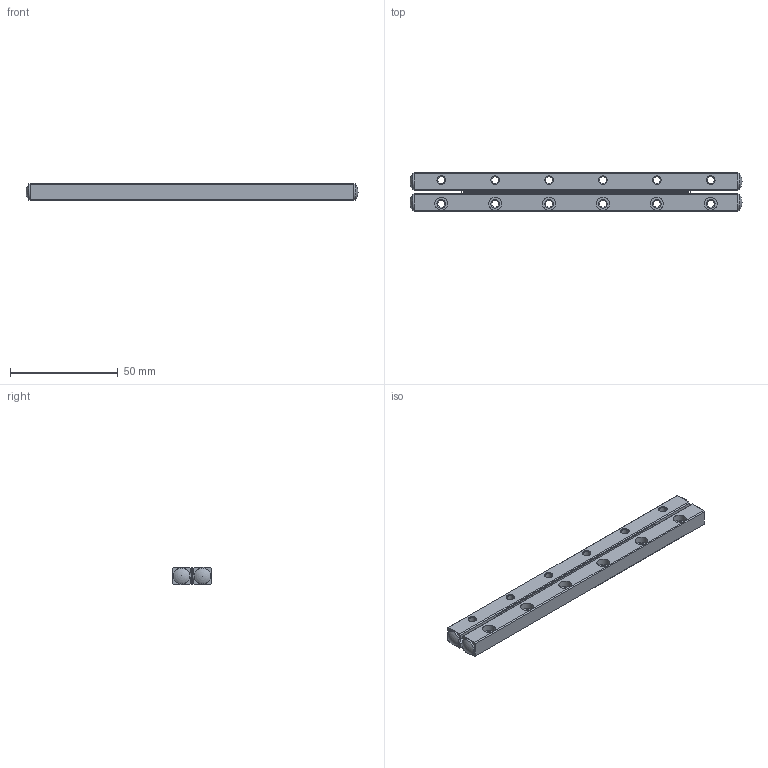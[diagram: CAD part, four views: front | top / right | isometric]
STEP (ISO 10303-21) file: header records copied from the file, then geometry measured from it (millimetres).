
FILE_DESCRIPTION(/* description */ ('Unknown'),/* implementation_level */ '2;1');
FILE_NAME(/* name */ 'VR3-150x21Z',/* time_stamp */ '2025-06-12T09:16:06+08:00',/* author */ ('Unknown'),/* organization */ ('Unknown'),/* preprocessor_version */ 'ST-DEVELOPER v18.102',/* originating_system */ 'Solid Edge',/* authorisation */ 'Unknown');
FILE_SCHEMA (('AUTOMOTIVE_DESIGN {1 0 10303 214 3 1 1}'));
Length unit declared in the file: millimetre
Products named in the file (4): VR3-150x21Z; VR3-150_21Z Roller guide; VR3-150_21Z Roller cage; VR3-150_21Z Roller guide; Top
Assembly tree (3 placements, depth 2):
  VR3-150x21Z
    VR3-150_21Z Roller guide
    VR3-150_21Z Roller cage
    VR3-150_21Z Roller guide; Top
Bounding box: 154 x 18 x 8 mm (x, y, z)
Volume: 18515.3 mm3; surface area: 13390.7 mm2
Topology: 3 solids, 3 shells, 339 faces, 901 edges, 576 vertices
Faces by surface type: plane 220, cone 70, cylinder 45, torus 4
Full cylindrical faces by diameter (mm): 3 x21, 3.3 x12, 6 x12
Entity records: 10085 total; most frequent: DIRECTION 1708, CARTESIAN_POINT 1681, ORIENTED_EDGE 1540, EDGE_CURVE 770, AXIS2_PLACEMENT_3D 595, FACE_BOUND 578, EDGE_LOOP 574, VERTEX_POINT 568
